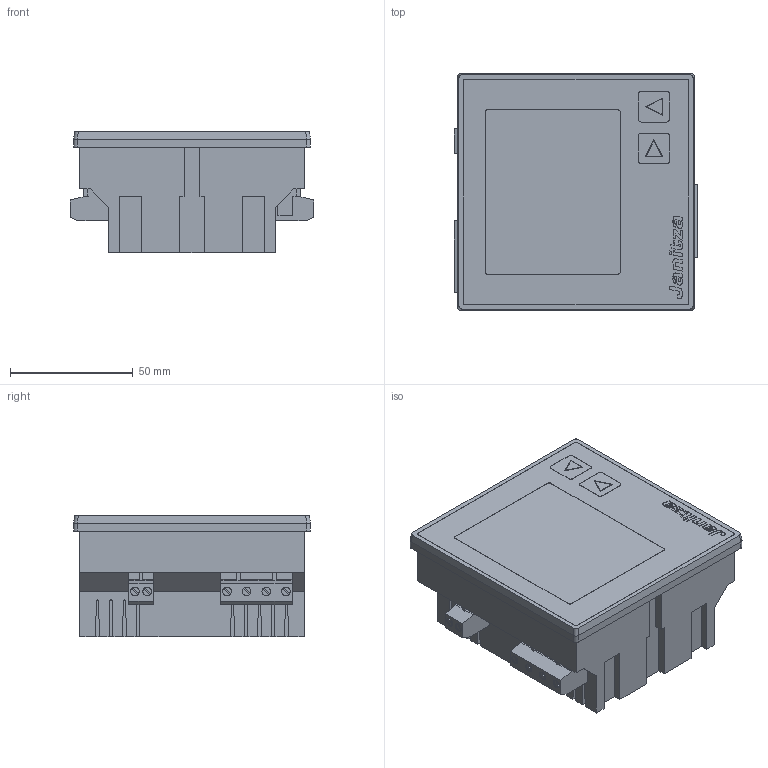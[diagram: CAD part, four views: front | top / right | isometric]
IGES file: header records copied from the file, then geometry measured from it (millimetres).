
Global section: file name: No Iges File Name specified; native system: AutoDesk Inventor R6.1; preprocessor: AutoDesk Inventor Iges Exporter R6.1; author: No Author specified; organization: No Organization specified; date: 20130503.141530; units: millimetre
Bounding box: 99 x 96.5 x 49.5 mm (x, y, z)
Surface area: 57363.1 mm2 (no closed solid volume)
Topology: 0 solids, 0 shells, 679 faces, 3688 edges, 3669 vertices
Faces by surface type: plane 487, bspline 115, revolution 77
